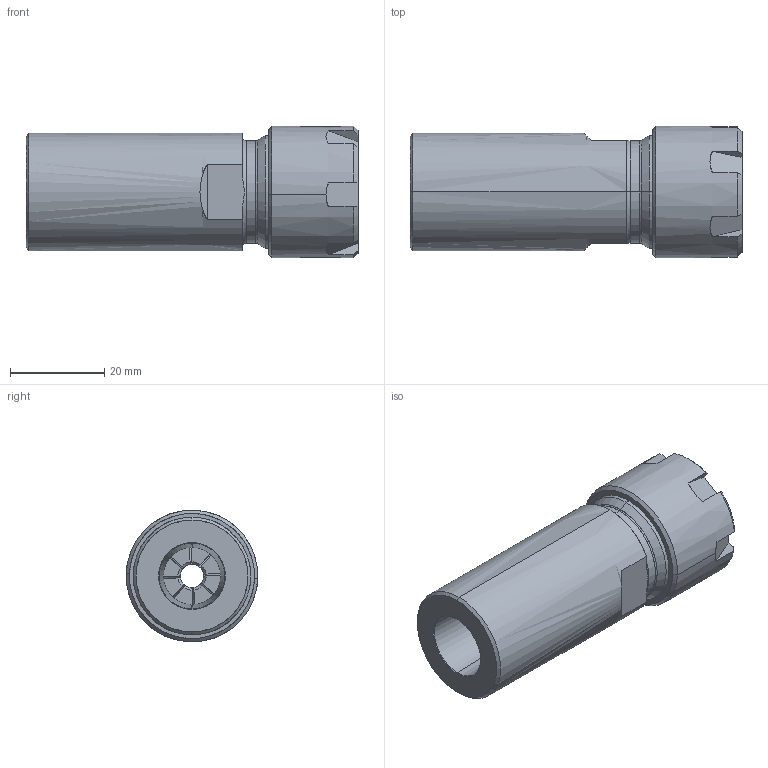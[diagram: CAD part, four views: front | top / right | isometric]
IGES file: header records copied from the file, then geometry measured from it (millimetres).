
Start section: SolidWorks IGES file using analytic representation for surfaces
Global section: file name: R:\Inventor\Kundmodeller Solidworks\Chuckar\040J000123 Collet chuck ER20 JT2 1-15 mm.IGS; native system: SolidWorks 2008; preprocessor: SolidWorks 2008; author: Johan; date: 090903.152547; units: millimetre
Bounding box: 70.6 x 28 x 27.98 mm (x, y, z)
Surface area: 19237.3 mm2 (no closed solid volume)
Topology: 0 solids, 0 shells, 213 faces, 1956 edges, 1956 vertices
Faces by surface type: revolution 107, bspline 106
